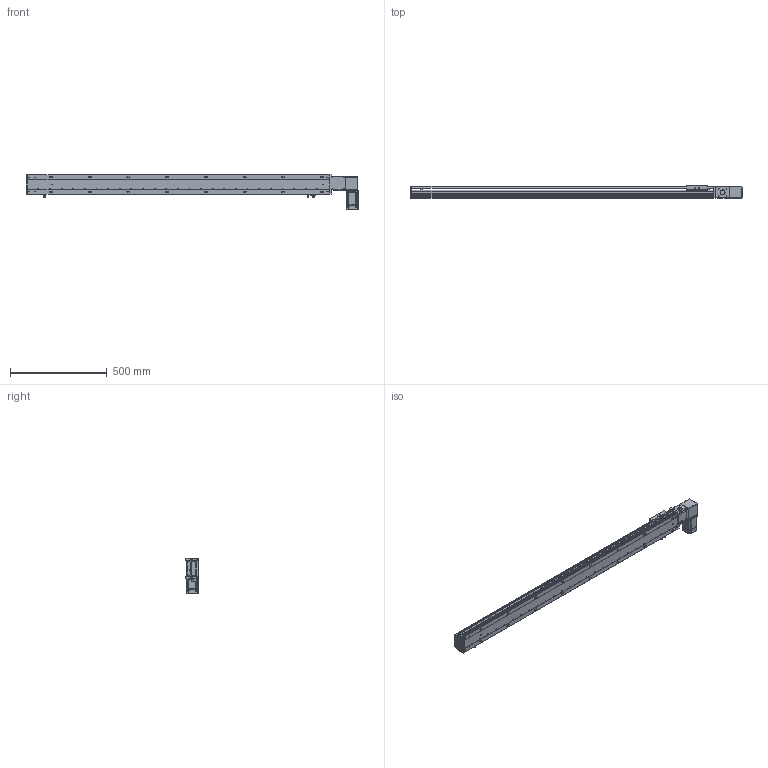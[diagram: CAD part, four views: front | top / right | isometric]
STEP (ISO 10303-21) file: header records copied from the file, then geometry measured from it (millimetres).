
FILE_DESCRIPTION (( 'STEP AP203' ), '1' );
FILE_NAME ('RY100-T-300-LK.SLDASM_1350.step', '2024-04-25T05:38:00', ( '盈信电脑' ), ( '东莞市道滘镇水果街19号' ), 'SwSTEP 2.0', 'SolidWorks 2016', '' );
FILE_SCHEMA (( 'CONFIG_CONTROL_DESIGN' ));
Length unit declared in the file: millimetre
Products named in the file (13): 覜茼ん672; RY100-T左右折电机安装板; RY100-T-300-RK倰第菁釱_1350; RY100綴裔啣; RY100-T肮祭謫翋盓傅釱; 1; RY80-T肮祭謫俋欶; RY100俋离覜茼え; RY100-T翋肮祭謫裔啣2; 滅袉蝶18-10; RY100-T肮祭謫臏賑輸; RY100-T-300-LK.SLDASM_1350; RY100-T-300-RK倰第奻裔_1350
Assembly tree (16 placements, depth 2):
  RY100-T-300-LK.SLDASM_1350
    RY100-T-300-RK倰第菁釱_1350
    RY100-T-300-RK倰第奻裔_1350
    RY100-T肮祭謫臏賑輸
    RY100綴裔啣
    覜茼ん672  x3
    RY100俋离覜茼え
    RY100-T肮祭謫翋盓傅釱
    滅袉蝶18-10  x2
    RY100-T翋肮祭謫裔啣2  x2
    RY80-T肮祭謫俋欶
    RY100-T左右折电机安装板
    1
Bounding box: 1714 x 66 x 182.5 mm (x, y, z)
Volume: 3172186.7 mm3; surface area: 1320274.3 mm2
Topology: 16 solids, 16 shells, 2184 faces, 6104 edges, 3968 vertices
Faces by surface type: plane 1178, cylinder 795, cone 133, bspline 78
Entity records: 69940 total; most frequent: CARTESIAN_POINT 17057, ORIENTED_EDGE 10944, DIRECTION 10380, EDGE_CURVE 5472, VERTEX_POINT 3604, LINE 3524, VECTOR 3524, AXIS2_PLACEMENT_3D 3428
